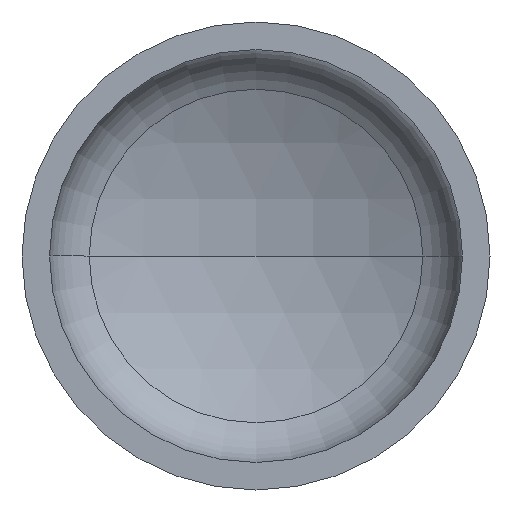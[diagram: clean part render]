
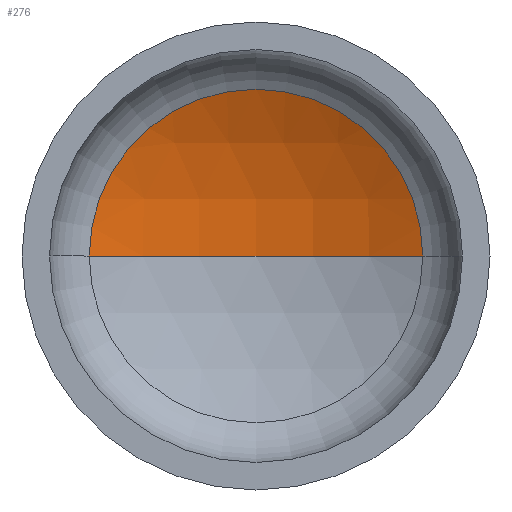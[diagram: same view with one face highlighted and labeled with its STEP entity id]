
A CAD part, front view. The second image highlights one B-rep face of the part: STEP entity #276.
In plain terms, the highlighted spherical face has radius 1280 mm.
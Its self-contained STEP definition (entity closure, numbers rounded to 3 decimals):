
#2 = AXIS2_PLACEMENT_3D ( 'NONE', #132, #314, #168 ) ;
#17 = AXIS2_PLACEMENT_3D ( 'NONE', #92, #86, #67 ) ;
#19 = AXIS2_PLACEMENT_3D ( 'NONE', #398, #184, #215 ) ;
#22 = CARTESIAN_POINT ( 'NONE',  ( 0., -826.663, 0. ) ) ;
#32 = EDGE_LOOP ( 'NONE', ( #110, #116, #60 ) ) ;
#33 = AXIS2_PLACEMENT_3D ( 'NONE', #22, #124, #208 ) ;
#57 = VERTEX_POINT ( 'NONE', #282 ) ;
#60 = ORIENTED_EDGE ( 'NONE', *, *, #355, .T. ) ;
#67 = DIRECTION ( 'NONE',  ( -1., 0., 0. ) ) ;
#71 = VERTEX_POINT ( 'NONE', #350 ) ;
#86 = DIRECTION ( 'NONE',  ( 0., 0., -1. ) ) ;
#92 = CARTESIAN_POINT ( 'NONE',  ( 0., -826.663, 0. ) ) ;
#110 = ORIENTED_EDGE ( 'NONE', *, *, #389, .F. ) ;
#116 = ORIENTED_EDGE ( 'NONE', *, *, #357, .T. ) ;
#124 = DIRECTION ( 'NONE',  ( 0., 0., -1. ) ) ;
#132 = CARTESIAN_POINT ( 'NONE',  ( 0., -826.663, 0. ) ) ;
#137 = VERTEX_POINT ( 'NONE', #301 ) ;
#168 = DIRECTION ( 'NONE',  ( 1., 0., 0. ) ) ;
#182 = SPHERICAL_SURFACE ( 'NONE', #33, 1280. ) ;
#184 = DIRECTION ( 'NONE',  ( 0., -1., 0. ) ) ;
#208 = DIRECTION ( 'NONE',  ( -1., 0., 0. ) ) ;
#215 = DIRECTION ( 'NONE',  ( 1., 0., 0. ) ) ;
#226 = CIRCLE ( 'NONE', #19, 570.126 ) ;
#276 = ADVANCED_FACE ( 'NONE', ( #375 ), #182, .F. ) ;
#282 = CARTESIAN_POINT ( 'NONE',  ( 570.126, 319.355, 0. ) ) ;
#301 = CARTESIAN_POINT ( 'NONE',  ( -570.126, 319.355, 0. ) ) ;
#314 = DIRECTION ( 'NONE',  ( 0., 0., 1. ) ) ;
#350 = CARTESIAN_POINT ( 'NONE',  ( 0., 453.337, 0. ) ) ;
#353 = CIRCLE ( 'NONE', #17, 1280. ) ;
#355 = EDGE_CURVE ( 'NONE', #57, #137, #226, .T. ) ;
#357 = EDGE_CURVE ( 'NONE', #71, #57, #353, .T. ) ;
#375 = FACE_OUTER_BOUND ( 'NONE', #32, .T. ) ;
#389 = EDGE_CURVE ( 'NONE', #71, #137, #393, .T. ) ;
#393 = CIRCLE ( 'NONE', #2, 1280. ) ;
#398 = CARTESIAN_POINT ( 'NONE',  ( 0., 319.355, 0. ) ) ;
